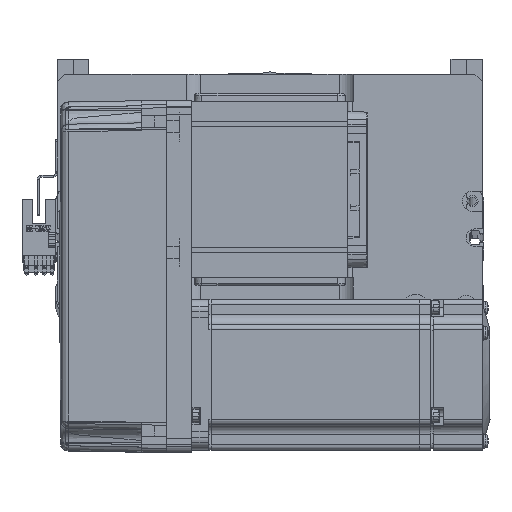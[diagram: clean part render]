
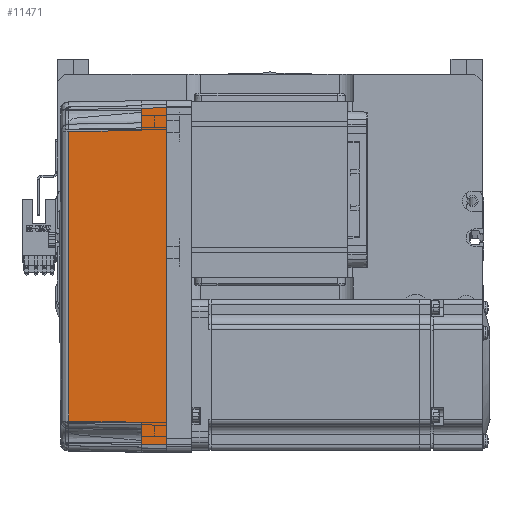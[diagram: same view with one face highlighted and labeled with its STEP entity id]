
A CAD part, top view. The second image highlights one B-rep face of the part: STEP entity #11471.
In plain terms, the highlighted planar face has unit normal (-0.018, 0, 1) as drawn and (0, -1, 0.017) by its records, which use the part's own axes.
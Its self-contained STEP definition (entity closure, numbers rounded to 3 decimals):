
#56 = VERTEX_POINT ( 'NONE', #15645 ) ;
#774 = VERTEX_POINT ( 'NONE', #39716 ) ;
#919 = CARTESIAN_POINT ( 'NONE',  ( -67., -36., 0. ) ) ;
#3028 = VECTOR ( 'NONE', #42226, 1000. ) ;
#3862 = LINE ( 'NONE', #22057, #43105 ) ;
#3867 = ORIENTED_EDGE ( 'NONE', *, *, #40192, .T. ) ;
#4639 = DIRECTION ( 'NONE',  ( 0., -1., 0.017 ) ) ;
#6368 = DIRECTION ( 'NONE',  ( -1., 0., 0. ) ) ;
#7173 = EDGE_CURVE ( 'NONE', #24606, #56, #54785, .T. ) ;
#11471 = ADVANCED_FACE ( 'NONE', ( #37468 ), #35327, .T. ) ;
#12155 = LINE ( 'NONE', #53537, #31393 ) ;
#12715 = LINE ( 'NONE', #43375, #35174 ) ;
#12936 = AXIS2_PLACEMENT_3D ( 'NONE', #30406, #4639, #40479 ) ;
#14841 = ORIENTED_EDGE ( 'NONE', *, *, #32245, .T. ) ;
#14852 = VECTOR ( 'NONE', #18767, 1000. ) ;
#15178 = VERTEX_POINT ( 'NONE', #35006 ) ;
#15645 = CARTESIAN_POINT ( 'NONE',  ( -66.826, -35.825, 10. ) ) ;
#15799 = ORIENTED_EDGE ( 'NONE', *, *, #7173, .T. ) ;
#16300 = ORIENTED_EDGE ( 'NONE', *, *, #29294, .T. ) ;
#16499 = VERTEX_POINT ( 'NONE', #63821 ) ;
#16810 = DIRECTION ( 'NONE',  ( -0.017, 0.017, 1. ) ) ;
#17854 = CARTESIAN_POINT ( 'NONE',  ( -58., -35.825, 10. ) ) ;
#18767 = DIRECTION ( 'NONE',  ( -1., 0., 0. ) ) ;
#21391 = VECTOR ( 'NONE', #16810, 1000. ) ;
#22057 = CARTESIAN_POINT ( 'NONE',  ( 0., -36., 0. ) ) ;
#24606 = VERTEX_POINT ( 'NONE', #17854 ) ;
#26147 = ORIENTED_EDGE ( 'NONE', *, *, #47900, .T. ) ;
#26494 = CARTESIAN_POINT ( 'NONE',  ( 58., -35.825, 10. ) ) ;
#27538 = VERTEX_POINT ( 'NONE', #61859 ) ;
#28869 = DIRECTION ( 'NONE',  ( -0.017, -0.017, -1. ) ) ;
#29294 = EDGE_CURVE ( 'NONE', #774, #30096, #46210, .T. ) ;
#30096 = VERTEX_POINT ( 'NONE', #59656 ) ;
#30406 = CARTESIAN_POINT ( 'NONE',  ( 70., -36., 0. ) ) ;
#31142 = VECTOR ( 'NONE', #28869, 1000. ) ;
#31393 = VECTOR ( 'NONE', #39065, 1000. ) ;
#31980 = LINE ( 'NONE', #44290, #31142 ) ;
#32245 = EDGE_CURVE ( 'NONE', #30096, #16499, #46972, .T. ) ;
#35006 = CARTESIAN_POINT ( 'NONE',  ( -57.495, -35.32, 38.985 ) ) ;
#35174 = VECTOR ( 'NONE', #39117, 1000. ) ;
#35327 = PLANE ( 'NONE',  #12936 ) ;
#37349 = ORIENTED_EDGE ( 'NONE', *, *, #56427, .F. ) ;
#37468 = FACE_OUTER_BOUND ( 'NONE', #60368, .T. ) ;
#38701 = CARTESIAN_POINT ( 'NONE',  ( 70., -35.825, 10. ) ) ;
#39065 = DIRECTION ( 'NONE',  ( -0.017, 0.017, 1. ) ) ;
#39117 = DIRECTION ( 'NONE',  ( 0.017, 0.017, 1. ) ) ;
#39716 = CARTESIAN_POINT ( 'NONE',  ( 66.826, -35.825, 10. ) ) ;
#40192 = EDGE_CURVE ( 'NONE', #16499, #15178, #62060, .T. ) ;
#40479 = DIRECTION ( 'NONE',  ( 0., -0.017, -1. ) ) ;
#42104 = CARTESIAN_POINT ( 'NONE',  ( -57.495, -35.32, 38.985 ) ) ;
#42226 = DIRECTION ( 'NONE',  ( -1., 0., 0. ) ) ;
#43105 = VECTOR ( 'NONE', #6368, 1000. ) ;
#43375 = CARTESIAN_POINT ( 'NONE',  ( -66.959, -35.958, 2.39 ) ) ;
#44290 = CARTESIAN_POINT ( 'NONE',  ( -57.495, -35.32, 38.985 ) ) ;
#45161 = EDGE_CURVE ( 'NONE', #27538, #774, #12155, .T. ) ;
#46210 = LINE ( 'NONE', #47970, #3028 ) ;
#46972 = LINE ( 'NONE', #26494, #21391 ) ;
#46978 = CARTESIAN_POINT ( 'NONE',  ( 19.165, -35.316, 39.181 ) ) ;
#47900 = EDGE_CURVE ( 'NONE', #15178, #24606, #31980, .T. ) ;
#47970 = CARTESIAN_POINT ( 'NONE',  ( 70., -35.825, 10. ) ) ;
#52737 = CARTESIAN_POINT ( 'NONE',  ( 57.495, -35.32, 38.985 ) ) ;
#53537 = CARTESIAN_POINT ( 'NONE',  ( 67., -36., 0. ) ) ;
#54785 = LINE ( 'NONE', #38701, #14852 ) ;
#56427 = EDGE_CURVE ( 'NONE', #61565, #56, #12715, .T. ) ;
#56744 = EDGE_CURVE ( 'NONE', #27538, #61565, #3862, .T. ) ;
#57233 = CARTESIAN_POINT ( 'NONE',  ( -19.165, -35.316, 39.181 ) ) ;
#59656 = CARTESIAN_POINT ( 'NONE',  ( 58., -35.825, 10. ) ) ;
#60368 = EDGE_LOOP ( 'NONE', ( #65041, #16300, #14841, #3867, #26147, #15799, #37349, #61909 ) ) ;
#61565 = VERTEX_POINT ( 'NONE', #919 ) ;
#61859 = CARTESIAN_POINT ( 'NONE',  ( 67., -36., 0. ) ) ;
#61909 = ORIENTED_EDGE ( 'NONE', *, *, #56744, .F. ) ;
#62060 = B_SPLINE_CURVE_WITH_KNOTS ( 'NONE', 3,
 ( #52737, #46978, #57233, #42104 ),
 .UNSPECIFIED., .F., .F.,
 ( 4, 4 ),
 ( 0., 1. ),
 .UNSPECIFIED. ) ;
#63821 = CARTESIAN_POINT ( 'NONE',  ( 57.495, -35.32, 38.985 ) ) ;
#65041 = ORIENTED_EDGE ( 'NONE', *, *, #45161, .T. ) ;
